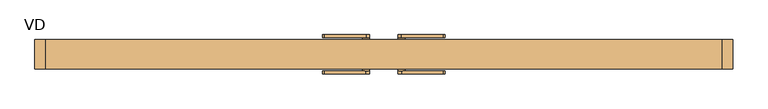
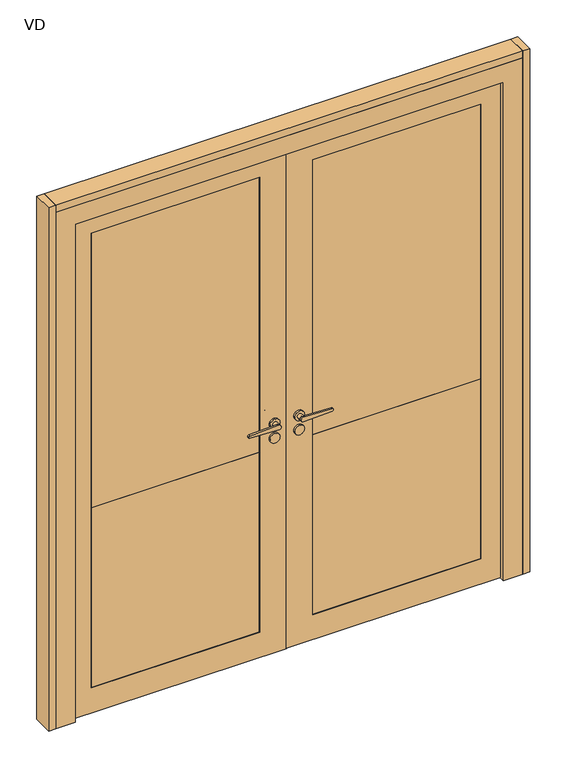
"""IFC4 building model written with IfcOpenShell, lengths in millimetres: door geometry, Mobiliário_Mobiliário de Escritório_Porta Dupla de Giro Mista Vidro Duplo - VD_Marelli : VD."""

from ifc_helpers import new_model, si_unit, point, frame, frame_2d, origin, origin_with_axes, place, context, project, spatial, polyline, circle_curve, trimmed, segment, composite_curve, outline, extrude, faceted_brep, source, transform, mapped, element, save


def vd_505fe819(model_context):
    return source(origin(), model_context, "Body", "SolidModel", [
        extrude(outline(polyline([(-1000.0, 42.5), (-970.0, 42.5), (-970.0, -42.5), (-1000.0, -42.5), (-1000.0, 42.5)])), origin_with_axes(), (0.0, 0.0, 1.0), 2300.0),
        extrude(outline(polyline([(1000.0, 42.5), (1000.0, -42.5), (970.0, -42.5), (970.0, 42.5), (1000.0, 42.5)])), origin_with_axes(), (0.0, 0.0, 1.0), 2300.0),
        extrude(outline(polyline([(2219.5, 0.75), (0.5, 0.75), (0.5, 919.5), (2219.5, 919.5), (2219.5, 0.75)]), holes=[polyline([(110.5, 809.5), (110.5, 110.75), (2109.5, 110.75), (2109.5, 809.5), (110.5, 809.5)])]), frame((0.0, -21.0, 0.0), z_axis=(0.0, 1.0, 0.0), x_axis=(0.0, 0.0, 1.0)), (0.0, 0.0, 1.0), 42.0),
        extrude(outline(polyline([(809.5, 18.5), (809.5, 12.5), (110.75, 12.5), (110.75, 18.5), (809.5, 18.5)])), frame((0.0, 0.0, 900.5), z_axis=(0.0, 0.0, 1.0), x_axis=(1.0, 0.0, 0.0)), (0.0, 0.0, 1.0), 1209.0),
        extrude(outline(polyline([(809.5, -18.5), (110.75, -18.5), (110.75, -12.5), (809.5, -12.5), (809.5, -18.5)])), frame((0.0, 0.0, 900.5), z_axis=(0.0, 0.0, 1.0), x_axis=(1.0, 0.0, 0.0)), (0.0, 0.0, 1.0), 1209.0),
        extrude(outline(polyline([(2219.5, -0.75), (2219.5, -919.5), (0.5, -919.5), (0.5, -0.75), (2219.5, -0.75)]), holes=[polyline([(110.5, -809.5), (2109.5, -809.5), (2109.5, -110.75), (110.5, -110.75), (110.5, -809.5)])]), frame((0.0, -21.0, 0.0), z_axis=(0.0, 1.0, 0.0), x_axis=(0.0, 0.0, 1.0)), (0.0, 0.0, 1.0), 42.0),
        extrude(outline(polyline([(-809.5, 18.5), (-110.75, 18.5), (-110.75, 12.5), (-809.5, 12.5), (-809.5, 18.5)])), frame((0.0, 0.0, 900.5), z_axis=(0.0, 0.0, 1.0), x_axis=(1.0, 0.0, 0.0)), (0.0, 0.0, 1.0), 1209.0),
        extrude(outline(polyline([(-809.5, -18.5), (-809.5, -12.5), (-110.75, -12.5), (-110.75, -18.5), (-809.5, -18.5)])), frame((0.0, 0.0, 900.5), z_axis=(0.0, 0.0, 1.0), x_axis=(1.0, 0.0, 0.0)), (0.0, 0.0, 1.0), 1209.0),
        extrude(outline(polyline([(970.0, 42.5), (970.0, -42.5), (-970.0, -42.5), (-970.0, 42.5), (970.0, 42.5)])), frame((0.0, 0.0, 2270.0), z_axis=(0.0, 0.0, 1.0), x_axis=(1.0, 0.0, 0.0)), (0.0, 0.0, 1.0), 30.0),
        faceted_brep([(-970.0, -42.5, 2270.0), (-970.0, -42.5, 0.0), (-890.0, -42.5, 0.0), (-890.0, -42.5, 2190.0), (890.0, -42.5, 2190.0), (890.0, -42.5, 0.0), (970.0, -42.5, 0.0), (970.0, -42.5, 2270.0), (-970.0, 42.5, 2270.0), (-970.0, 42.5, 0.0), (890.0, -21.5, 0.0), (920.0, -21.5, 0.0), (920.0, 42.5, 0.0), (970.0, 42.5, 0.0), (-920.0, 42.5, 0.0), (-920.0, -21.5, 0.0), (-890.0, -21.5, 0.0), (-890.0, -21.5, 2190.0), (890.0, -21.5, 2190.0), (970.0, 42.5, 2270.0), (-920.0, -21.5, 2220.0), (920.0, -21.5, 2220.0), (-920.0, 42.5, 2220.0), (920.0, 42.5, 2220.0)], [[[0, 1, 2, 3, 4, 5, 6, 7]], [[0, 8, 9, 1]], [[6, 5, 10, 11, 12, 13]], [[1, 9, 14, 15, 16, 2]], [[2, 16, 17, 3]], [[10, 5, 4, 18]], [[19, 7, 6, 13]], [[18, 17, 16, 15, 20, 21, 11, 10]], [[20, 15, 14, 22]], [[12, 11, 21, 23]], [[23, 22, 14, 9, 8, 19, 13, 12]], [[4, 3, 17, 18]], [[22, 23, 21, 20]], [[19, 8, 0, 7]]]),
        extrude(outline(polyline([(809.5, 18.5), (809.5, -18.5), (110.75, -18.5), (110.75, 18.5), (809.5, 18.5)])), frame((0.0, 0.0, 110.5), z_axis=(0.0, 0.0, 1.0), x_axis=(1.0, 0.0, 0.0)), (0.0, 0.0, 1.0), 790.0),
        extrude(outline(polyline([(-809.5, 18.5), (-110.75, 18.5), (-110.75, -18.5), (-809.5, -18.5), (-809.5, 18.5)])), frame((0.0, 0.0, 110.5), z_axis=(0.0, 0.0, 1.0), x_axis=(1.0, 0.0, 0.0)), (0.0, 0.0, 1.0), 790.0),
        extrude(outline(composite_curve([segment(trimmed(circle_curve(frame_2d((1010.0, -51.05)), 20.8), [point((1010.0, -71.85))], [point((1010.0, -30.25))], False, "CARTESIAN"), True, "CONTINUOUS"), segment(trimmed(circle_curve(frame_2d((1010.0, -51.05)), 20.8), [point((1010.0, -30.25))], [point((1010.0, -71.85))], False, "CARTESIAN"), True, "CONTINUOUS")], self_intersect=False)), frame((0.0, 21.0, 0.0), z_axis=(0.0, 1.0, 0.0), x_axis=(0.0, 0.0, 1.0)), (0.0, 0.0, 1.0), 8.0),
        extrude(outline(composite_curve([segment(trimmed(circle_curve(frame_2d((947.58, -51.05)), 20.8), [point((947.58, -71.85))], [point((947.58, -30.25))], False, "CARTESIAN"), True, "CONTINUOUS"), segment(trimmed(circle_curve(frame_2d((947.58, -51.05)), 20.8), [point((947.58, -30.25))], [point((947.58, -71.85))], False, "CARTESIAN"), True, "CONTINUOUS")], self_intersect=False)), frame((0.0, 21.0, 0.0), z_axis=(0.0, 1.0, 0.0), x_axis=(0.0, 0.0, 1.0)), (0.0, 0.0, 1.0), 8.0),
        extrude(outline(composite_curve([segment(trimmed(circle_curve(frame_2d((1010.0, -51.05)), 20.8), [point((1010.0, -71.85))], [point((1010.0, -30.25))], False, "CARTESIAN"), True, "CONTINUOUS"), segment(trimmed(circle_curve(frame_2d((1010.0, -51.05)), 20.8), [point((1010.0, -30.25))], [point((1010.0, -71.85))], False, "CARTESIAN"), True, "CONTINUOUS")], self_intersect=False)), frame((0.0, -29.0, 0.0), z_axis=(0.0, 1.0, 0.0), x_axis=(0.0, 0.0, 1.0)), (0.0, 0.0, 1.0), 8.0),
        extrude(outline(composite_curve([segment(trimmed(circle_curve(frame_2d((947.58, -51.05)), 20.8), [point((947.58, -71.85))], [point((947.58, -30.25))], False, "CARTESIAN"), True, "CONTINUOUS"), segment(trimmed(circle_curve(frame_2d((947.58, -51.05)), 20.8), [point((947.58, -30.25))], [point((947.58, -71.85))], False, "CARTESIAN"), True, "CONTINUOUS")], self_intersect=False)), frame((0.0, -29.0, 0.0), z_axis=(0.0, 1.0, 0.0), x_axis=(0.0, 0.0, 1.0)), (0.0, 0.0, 1.0), 8.0),
        extrude(outline(composite_curve([segment(trimmed(circle_curve(frame_2d((1010.0, -51.05)), 10.0), [point((1000.0, -51.05))], [point((1020.0, -51.05))], False, "CARTESIAN"), True, "CONTINUOUS"), segment(polyline([(1020.0, -51.05), (1014.970724, -171.1849324)]), True, "CONTINUOUS"), segment(trimmed(circle_curve(frame_2d((1010.0145906, -171.1849324)), 4.9561334), [point((1014.970724, -171.1849324))], [point((1005.0584573, -171.1849324))], False, "CARTESIAN"), True, "CONTINUOUS"), segment(polyline([(1005.0584573, -171.1849324), (1000.0, -51.05)]), True, "CONTINUOUS")], self_intersect=False)), frame((0.0, 48.0, 0.0), z_axis=(0.0, 1.0, 0.0), x_axis=(0.0, 0.0, 1.0)), (0.0, 0.0, 1.0), 8.0),
        extrude(outline(composite_curve([segment(trimmed(circle_curve(frame_2d((1010.0, -51.05)), 10.0), [point((1010.0, -61.05))], [point((1010.0, -41.05))], False, "CARTESIAN"), True, "CONTINUOUS"), segment(trimmed(circle_curve(frame_2d((1010.0, -51.05)), 10.0), [point((1010.0, -41.05))], [point((1010.0, -61.05))], False, "CARTESIAN"), True, "CONTINUOUS")], self_intersect=False)), frame((0.0, -48.0, 0.0), z_axis=(0.0, 1.0, 0.0), x_axis=(0.0, 0.0, 1.0)), (0.0, 0.0, 1.0), 19.0),
        extrude(outline(composite_curve([segment(trimmed(circle_curve(frame_2d((1010.0, -51.05)), 10.0), [point((1010.0, -61.05))], [point((1010.0, -41.05))], False, "CARTESIAN"), True, "CONTINUOUS"), segment(trimmed(circle_curve(frame_2d((1010.0, -51.05)), 10.0), [point((1010.0, -41.05))], [point((1010.0, -61.05))], False, "CARTESIAN"), True, "CONTINUOUS")], self_intersect=False)), frame((0.0, 29.0, 0.0), z_axis=(0.0, 1.0, 0.0), x_axis=(0.0, 0.0, 1.0)), (0.0, 0.0, 1.0), 19.0),
        extrude(outline(composite_curve([segment(trimmed(circle_curve(frame_2d((1010.0145906, -171.1849324)), 4.9561334), [point((1014.970724, -171.1849324))], [point((1005.0584573, -171.1849324))], False, "CARTESIAN"), True, "CONTINUOUS"), segment(polyline([(1005.0584573, -171.1849324), (1000.0, -51.05)]), True, "CONTINUOUS"), segment(trimmed(circle_curve(frame_2d((1010.0, -51.05)), 10.0), [point((1000.0, -51.05))], [point((1020.0, -51.05))], False, "CARTESIAN"), True, "CONTINUOUS"), segment(polyline([(1020.0, -51.05), (1014.970724, -171.1849324)]), True, "CONTINUOUS")], self_intersect=False)), frame((0.0, -56.0, 0.0), z_axis=(0.0, 1.0, 0.0), x_axis=(0.0, 0.0, 1.0)), (0.0, 0.0, 1.0), 8.0),
        extrude(outline(composite_curve([segment(trimmed(circle_curve(frame_2d((1010.0, 51.05)), 20.8), [point((1010.0, 71.85))], [point((1010.0, 30.25))], False, "CARTESIAN"), True, "CONTINUOUS"), segment(trimmed(circle_curve(frame_2d((1010.0, 51.05)), 20.8), [point((1010.0, 30.25))], [point((1010.0, 71.85))], False, "CARTESIAN"), True, "CONTINUOUS")], self_intersect=False)), frame((0.0, 21.0, 0.0), z_axis=(0.0, 1.0, 0.0), x_axis=(0.0, 0.0, 1.0)), (0.0, 0.0, 1.0), 8.0),
        extrude(outline(composite_curve([segment(trimmed(circle_curve(frame_2d((947.58, 51.05)), 20.8), [point((947.58, 71.85))], [point((947.58, 30.25))], False, "CARTESIAN"), True, "CONTINUOUS"), segment(trimmed(circle_curve(frame_2d((947.58, 51.05)), 20.8), [point((947.58, 30.25))], [point((947.58, 71.85))], False, "CARTESIAN"), True, "CONTINUOUS")], self_intersect=False)), frame((0.0, 21.0, 0.0), z_axis=(0.0, 1.0, 0.0), x_axis=(0.0, 0.0, 1.0)), (0.0, 0.0, 1.0), 8.0),
        extrude(outline(composite_curve([segment(trimmed(circle_curve(frame_2d((1010.0, 51.05)), 20.8), [point((1010.0, 71.85))], [point((1010.0, 30.25))], False, "CARTESIAN"), True, "CONTINUOUS"), segment(trimmed(circle_curve(frame_2d((1010.0, 51.05)), 20.8), [point((1010.0, 30.25))], [point((1010.0, 71.85))], False, "CARTESIAN"), True, "CONTINUOUS")], self_intersect=False)), frame((0.0, -29.0, 0.0), z_axis=(0.0, 1.0, 0.0), x_axis=(0.0, 0.0, 1.0)), (0.0, 0.0, 1.0), 8.0),
        extrude(outline(composite_curve([segment(trimmed(circle_curve(frame_2d((947.58, 51.05)), 20.8), [point((947.58, 71.85))], [point((947.58, 30.25))], False, "CARTESIAN"), True, "CONTINUOUS"), segment(trimmed(circle_curve(frame_2d((947.58, 51.05)), 20.8), [point((947.58, 30.25))], [point((947.58, 71.85))], False, "CARTESIAN"), True, "CONTINUOUS")], self_intersect=False)), frame((0.0, -29.0, 0.0), z_axis=(0.0, 1.0, 0.0), x_axis=(0.0, 0.0, 1.0)), (0.0, 0.0, 1.0), 8.0),
        extrude(outline(composite_curve([segment(polyline([(1000.0, 51.05), (1005.0584573, 171.1849324)]), True, "CONTINUOUS"), segment(trimmed(circle_curve(frame_2d((1010.0145906, 171.1849324)), 4.9561334), [point((1005.0584573, 171.1849324))], [point((1014.970724, 171.1849324))], False, "CARTESIAN"), True, "CONTINUOUS"), segment(polyline([(1014.970724, 171.1849324), (1020.0, 51.05)]), True, "CONTINUOUS"), segment(trimmed(circle_curve(frame_2d((1010.0, 51.05)), 10.0), [point((1020.0, 51.05))], [point((1000.0, 51.05))], False, "CARTESIAN"), True, "CONTINUOUS")], self_intersect=False)), frame((0.0, 48.0, 0.0), z_axis=(0.0, 1.0, 0.0), x_axis=(0.0, 0.0, 1.0)), (0.0, 0.0, 1.0), 8.0),
        extrude(outline(composite_curve([segment(trimmed(circle_curve(frame_2d((1010.0, 51.05)), 10.0), [point((1010.0, 61.05))], [point((1010.0, 41.05))], False, "CARTESIAN"), True, "CONTINUOUS"), segment(trimmed(circle_curve(frame_2d((1010.0, 51.05)), 10.0), [point((1010.0, 41.05))], [point((1010.0, 61.05))], False, "CARTESIAN"), True, "CONTINUOUS")], self_intersect=False)), frame((0.0, -48.0, 0.0), z_axis=(0.0, 1.0, 0.0), x_axis=(0.0, 0.0, 1.0)), (0.0, 0.0, 1.0), 19.0),
        extrude(outline(composite_curve([segment(trimmed(circle_curve(frame_2d((1010.0, 51.05)), 10.0), [point((1010.0, 61.05))], [point((1010.0, 41.05))], False, "CARTESIAN"), True, "CONTINUOUS"), segment(trimmed(circle_curve(frame_2d((1010.0, 51.05)), 10.0), [point((1010.0, 41.05))], [point((1010.0, 61.05))], False, "CARTESIAN"), True, "CONTINUOUS")], self_intersect=False)), frame((0.0, 29.0, 0.0), z_axis=(0.0, 1.0, 0.0), x_axis=(0.0, 0.0, 1.0)), (0.0, 0.0, 1.0), 19.0),
        extrude(outline(composite_curve([segment(polyline([(1014.970724, 171.1849324), (1020.0, 51.05)]), True, "CONTINUOUS"), segment(trimmed(circle_curve(frame_2d((1010.0, 51.05)), 10.0), [point((1020.0, 51.05))], [point((1000.0, 51.05))], False, "CARTESIAN"), True, "CONTINUOUS"), segment(polyline([(1000.0, 51.05), (1005.0584573, 171.1849324)]), True, "CONTINUOUS"), segment(trimmed(circle_curve(frame_2d((1010.0145906, 171.1849324)), 4.9561334), [point((1005.0584573, 171.1849324))], [point((1014.970724, 171.1849324))], False, "CARTESIAN"), True, "CONTINUOUS")], self_intersect=False)), frame((0.0, -56.0, 0.0), z_axis=(0.0, 1.0, 0.0), x_axis=(0.0, 0.0, 1.0)), (0.0, 0.0, 1.0), 8.0),
    ])


if __name__ == "__main__":
    model = new_model("IFC4")
    model_context = context("Model", 3, world=origin())
    ifc_project = project(units=[si_unit("LENGTHUNIT", "METRE", prefix="MILLI")], contexts=[model_context])
    site = spatial("IfcSite", under=ifc_project)
    building = spatial("IfcBuilding", under=site)
    placement = place(None, origin())
    vd_shape = vd_505fe819(model_context)
    element("IfcDoor", 1, ObjectType="Mobiliário_Mobiliário de Escritório_Porta Dupla de Giro Mista Vidro Duplo - VD_Marelli : VD", at=placement, inside=building, context=model_context, shape_type="MappedRepresentation", body=[
        mapped(vd_shape, transform((0.0, 0.0, 0.0), x_axis=(1.0, 0.0, 0.0), y_axis=(0.0, 1.0, 0.0), z_axis=(0.0, 0.0, 1.0))),
    ])
    save(model, "model.ifc")
